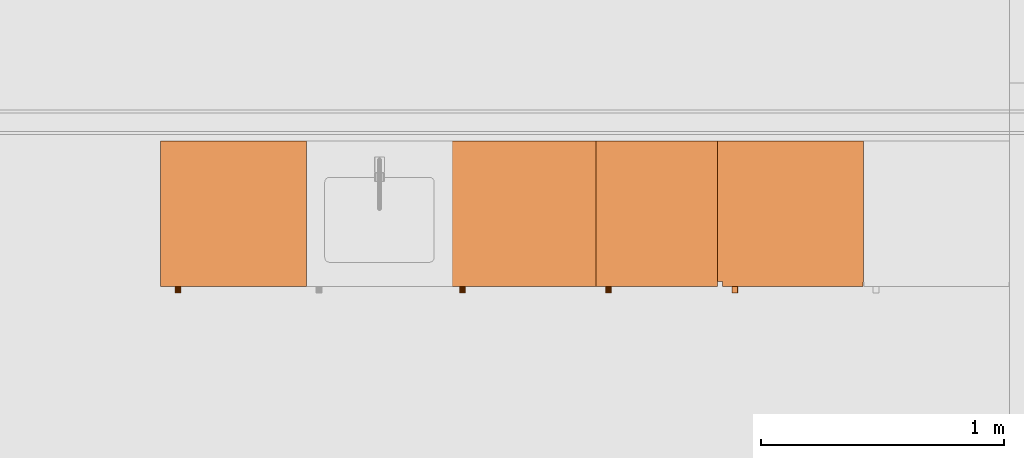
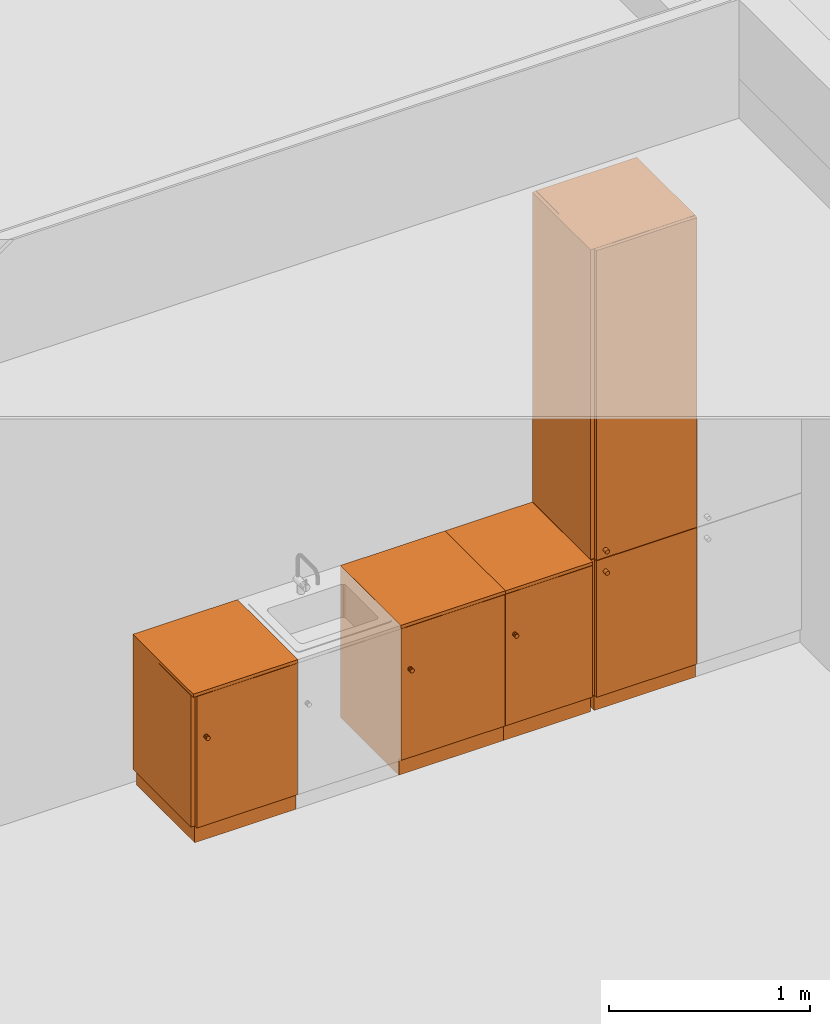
# One storey, part 106 of 167: 4 proxies.
"""IFC2X3 building model written with IfcOpenShell, lengths in millimetres."""

from ifc_helpers import new_model, entity, si_unit, converted_unit, derived_unit, money_unit, direction, frame, origin_with_axes, place, context, subcontext, project, spatial, faceted_brep, source, transform, mapped, type_object, type_shapes, element, save


model = new_model("IFC2X3")

# Units and contexts
model_context = context("Model", 3, precision=0.01, world=origin_with_axes(), true_north=direction((0.0, 1.0)))
plan_context = context("Plan", 3, precision=0.01, world=origin_with_axes(), true_north=direction((0.0, 1.0)))
body_context = subcontext(model_context, "Body", "Model", "MODEL_VIEW")
ifc_project = project(units=[si_unit("LENGTHUNIT", "METRE", prefix="MILLI"), si_unit("AREAUNIT", "SQUARE_METRE"), si_unit("VOLUMEUNIT", "CUBIC_METRE"), converted_unit("PLANEANGLEUNIT", "DEGREE", entity("IfcPlaneAngleMeasure", 0.0174532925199), si_unit("PLANEANGLEUNIT", "RADIAN"), dimensions=[0, 0, 0, 0, 0, 0, 0]), si_unit("SOLIDANGLEUNIT", "STERADIAN"), money_unit("EUR"), converted_unit("TIMEUNIT", "Year", entity("IfcTimeMeasure", 31556926.0), si_unit("TIMEUNIT", "SECOND"), dimensions=[0, 0, 1, 0, 0, 0, 0]), si_unit("MASSUNIT", "GRAM", prefix="KILO"), si_unit("THERMODYNAMICTEMPERATUREUNIT", "DEGREE_CELSIUS"), si_unit("LUMINOUSINTENSITYUNIT", "LUMEN"), si_unit("ENERGYUNIT", "JOULE", prefix="MEGA"), derived_unit("THERMALCONDUCTANCEUNIT", [(si_unit("POWERUNIT", "WATT"), 1), (si_unit("LENGTHUNIT", "METRE"), -1), (si_unit("THERMODYNAMICTEMPERATUREUNIT", "KELVIN"), -1)]), derived_unit("SPECIFICHEATCAPACITYUNIT", [(si_unit("ENERGYUNIT", "JOULE"), 1), (si_unit("MASSUNIT", "GRAM", prefix="KILO"), -1), (si_unit("THERMODYNAMICTEMPERATUREUNIT", "KELVIN"), -1)]), derived_unit("MASSDENSITYUNIT", [(si_unit("MASSUNIT", "GRAM", prefix="KILO"), 1), (si_unit("VOLUMEUNIT", "CUBIC_METRE"), -1)])], contexts=[model_context, plan_context])

# Site, building, storey
site_placement = place(None, origin_with_axes())
site = spatial("IfcSite", under=ifc_project, at=site_placement, Name="Site", CompositionType="ELEMENT")
building_placement = place(site_placement, origin_with_axes())
building = spatial("IfcBuilding", under=site, at=building_placement, Name="Naam gebouw", CompositionType="ELEMENT")
storey_placement = place(building_placement, origin_with_axes())
storey = spatial("IfcBuildingStorey", under=building, at=storey_placement, Name="Begane grond", CompositionType="ELEMENT", Elevation=0.0)

# Proxies
building_element_proxy_type_1 = type_object("IfcBuildingElementProxyType", Name="Kast basis 1D 24", PredefinedType="NOTDEFINED")
shared_shape_1 = source(origin_with_axes(), body_context, "Body", "Brep", [
    faceted_brep([(0.0, 20.0, 0.0), (0.0, 20.0, 100.0), (-500.0, 20.0, 100.0), (-500.0, 20.0, 0.0), (0.0, 600.0, 0.0), (0.0, 600.0, 100.0), (-500.0, 600.0, 100.0), (-500.0, 600.0, 0.0)], [[[0, 1, 2, 3]], [[4, 5, 1, 0]], [[1, 5, 6, 2]], [[3, 2, 6, 7]], [[0, 3, 7, 4]], [[7, 6, 5, 4]]]),
    faceted_brep([(0.0, 20.0, 880.0), (0.0, 20.0, 900.0), (-20.0, 20.0, 900.0), (-20.0, 20.0, 880.0), (0.0, 600.0, 880.0), (0.0, 600.0, 900.0), (-20.0, 600.0, 900.0), (-480.0, 600.0, 900.0), (-500.0, 600.0, 900.0), (-500.0, 20.0, 900.0), (-480.0, 20.0, 900.0), (-480.0, 20.0, 880.0), (-500.0, 20.0, 880.0), (-500.0, 600.0, 880.0), (-480.0, 600.0, 880.0), (-20.0, 600.0, 880.0)], [[[0, 1, 2, 3]], [[4, 5, 1, 0]], [[1, 5, 6, 7, 8, 9, 10, 2]], [[3, 2, 10, 11]], [[0, 3, 11, 12, 13, 14, 15, 4]], [[15, 6, 5, 4]], [[14, 7, 6, 15]], [[13, 8, 7, 14]], [[12, 9, 8, 13]], [[11, 10, 9, 12]]]),
    faceted_brep([(0.0, 20.0, 100.0), (0.0, 20.0, 120.0), (-20.0, 20.0, 120.0), (-20.0, 20.0, 100.0), (0.0, 600.0, 100.0), (0.0, 600.0, 120.0), (-20.0, 600.0, 120.0), (-480.0, 600.0, 120.0), (-500.0, 600.0, 120.0), (-500.0, 20.0, 120.0), (-480.0, 20.0, 120.0), (-480.0, 20.0, 100.0), (-500.0, 20.0, 100.0), (-500.0, 600.0, 100.0), (-480.0, 600.0, 100.0), (-20.0, 600.0, 100.0)], [[[0, 1, 2, 3]], [[4, 5, 1, 0]], [[1, 5, 6, 7, 8, 9, 10, 2]], [[3, 2, 10, 11]], [[0, 3, 11, 12, 13, 14, 15, 4]], [[15, 6, 5, 4]], [[14, 7, 6, 15]], [[13, 8, 7, 14]], [[12, 9, 8, 13]], [[11, 10, 9, 12]]]),
    faceted_brep([(0.0, 20.0, 120.0), (0.0, 20.0, 880.0), (-20.0, 20.0, 880.0), (-20.0, 20.0, 120.0), (0.0, 600.0, 120.0), (0.0, 600.0, 880.0), (-500.0, 600.0, 880.0), (-500.0, 20.0, 880.0), (-480.0, 20.0, 880.0), (-480.0, 580.0, 880.0), (-20.0, 580.0, 880.0), (-20.0, 580.0, 120.0), (-480.0, 580.0, 120.0), (-480.0, 20.0, 120.0), (-500.0, 20.0, 120.0), (-500.0, 600.0, 120.0)], [[[0, 1, 2, 3]], [[4, 5, 1, 0]], [[1, 5, 6, 7, 8, 9, 10, 2]], [[3, 2, 10, 11]], [[0, 3, 11, 12, 13, 14, 15, 4]], [[15, 6, 5, 4]], [[14, 7, 6, 15]], [[13, 8, 7, 14]], [[12, 9, 8, 13]], [[11, 10, 9, 12]]]),
    faceted_brep([(-480.0, 20.0, 480.0), (-480.0, 20.0, 500.0), (-480.0, 580.0, 500.0), (-480.0, 580.0, 480.0), (-20.0, 20.0, 480.0), (-20.0, 20.0, 500.0), (-20.0, 580.0, 500.0), (-20.0, 580.0, 480.0)], [[[0, 1, 2, 3]], [[4, 5, 1, 0]], [[1, 5, 6, 2]], [[3, 2, 6, 7]], [[0, 3, 7, 4]], [[7, 6, 5, 4]]]),
    faceted_brep([(0.0, 0.0, 900.0), (0.0, 0.0, 920.0), (-500.0, 0.0, 920.0), (-500.0, 0.0, 900.0), (0.0, 600.0, 900.0), (0.0, 600.0, 920.0), (-500.0, 600.0, 920.0), (-500.0, 600.0, 900.0)], [[[0, 1, 2, 3]], [[4, 5, 1, 0]], [[1, 5, 6, 2]], [[3, 2, 6, 7]], [[0, 3, 7, 4]], [[7, 6, 5, 4]]]),
    faceted_brep([(-1.5, 20.0, 101.5), (-1.5, 0.0, 101.5), (-498.5, 0.0, 101.5), (-498.5, 20.0, 101.5), (-1.5, 20.0, 898.5), (-1.5, 0.0, 898.5), (-498.5, 0.0, 898.5), (-498.5, 20.0, 898.5)], [[[0, 1, 2, 3]], [[4, 5, 1, 0]], [[1, 5, 6, 2]], [[3, 2, 6, 7]], [[0, 3, 7, 4]], [[7, 6, 5, 4]]]),
    faceted_brep([(-459.58655439, 0.0, 636.907798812), (-460.5, 0.0, 641.5), (-459.58655439, 0.0, 646.092201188), (-456.985281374, 0.0, 649.985281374), (-453.092201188, 0.0, 652.58655439), (-448.5, 0.0, 653.5), (-443.907798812, 0.0, 652.58655439), (-440.014718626, 0.0, 649.985281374), (-437.41344561, 0.0, 646.092201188), (-436.5, 0.0, 641.5), (-437.41344561, 0.0, 636.907798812), (-440.014718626, 0.0, 633.014718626), (-443.907798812, 0.0, 630.41344561), (-448.5, 0.0, 629.5), (-453.092201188, 0.0, 630.41344561), (-456.985281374, 0.0, 633.014718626), (-459.58655439, -25.0, 636.907798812), (-460.5, -25.0, 641.5), (-459.58655439, -25.0, 646.092201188), (-456.985281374, -25.0, 649.985281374), (-453.092201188, -25.0, 652.58655439), (-448.5, -25.0, 653.5), (-443.907798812, -25.0, 652.58655439), (-440.014718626, -25.0, 649.985281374), (-437.41344561, -25.0, 646.092201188), (-436.5, -25.0, 641.5), (-437.41344561, -25.0, 636.907798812), (-440.014718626, -25.0, 633.014718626), (-443.907798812, -25.0, 630.41344561), (-448.5, -25.0, 629.5), (-453.092201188, -25.0, 630.41344561), (-456.985281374, -25.0, 633.014718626)], [[[0, 1, 2, 3, 4, 5, 6, 7, 8, 9, 10, 11, 12, 13, 14, 15]], [[0, 16, 17, 1]], [[1, 17, 18, 2]], [[2, 18, 19, 3]], [[3, 19, 20, 4]], [[4, 20, 21, 5]], [[5, 21, 22, 6]], [[6, 22, 23, 7]], [[7, 23, 24, 8]], [[8, 24, 25, 9]], [[9, 25, 26, 10]], [[10, 26, 27, 11]], [[11, 27, 28, 12]], [[12, 28, 29, 13]], [[13, 29, 30, 14]], [[14, 30, 31, 15]], [[15, 31, 16, 0]], [[16, 31, 30, 29, 28, 27, 26, 25, 24, 23, 22, 21, 20, 19, 18, 17]]]),
])
proxy_1_placement = place(storey_placement, frame((27786.0, 7273.34783859, 0.0), z_axis=(0.0, 0.0, 1.0), x_axis=(1.0, 0.0, 0.0)))
element("IfcBuildingElementProxy", 1, at=proxy_1_placement, inside=storey, type_object=building_element_proxy_type_1, Name="__Object-x", context=body_context, shape_type="MappedRepresentation", body=[
    mapped(shared_shape_1, transform((0.0, 0.0, 0.0))),
])
building_element_proxy_type_2 = type_object("IfcBuildingElementProxyType", Name="Kast hoog 1D 24", PredefinedType="NOTDEFINED")
shared_shape_2 = source(origin_with_axes(), body_context, "Body", "Brep", [
    faceted_brep([(-20.0, 20.0, 910.0), (-20.0, 20.0, 930.0), (-560.0, 20.0, 930.0), (-560.0, 20.0, 910.0), (-20.0, 580.0, 910.0), (-20.0, 580.0, 930.0), (-560.0, 580.0, 930.0), (-560.0, 580.0, 910.0)], [[[0, 1, 2, 3]], [[4, 5, 1, 0]], [[1, 5, 6, 2]], [[3, 2, 6, 7]], [[0, 3, 7, 4]], [[7, 6, 5, 4]]]),
    faceted_brep([(0.0, 20.0, 0.0), (0.0, 20.0, 90.0), (-580.0, 20.0, 90.0), (-580.0, 20.0, 0.0), (0.0, 600.0, 0.0), (0.0, 600.0, 90.0), (-580.0, 600.0, 90.0), (-580.0, 600.0, 0.0)], [[[0, 1, 2, 3]], [[4, 5, 1, 0]], [[1, 5, 6, 2]], [[3, 2, 6, 7]], [[0, 3, 7, 4]], [[7, 6, 5, 4]]]),
    faceted_brep([(0.0, 20.0, 2780.0), (0.0, 20.0, 2800.0), (-20.0, 20.0, 2800.0), (-20.0, 20.0, 2780.0), (0.0, 600.0, 2780.0), (0.0, 600.0, 2800.0), (-20.0, 600.0, 2800.0), (-560.0, 600.0, 2800.0), (-580.0, 600.0, 2800.0), (-580.0, 20.0, 2800.0), (-560.0, 20.0, 2800.0), (-560.0, 20.0, 2780.0), (-580.0, 20.0, 2780.0), (-580.0, 600.0, 2780.0), (-560.0, 600.0, 2780.0), (-20.0, 600.0, 2780.0)], [[[0, 1, 2, 3]], [[4, 5, 1, 0]], [[1, 5, 6, 7, 8, 9, 10, 2]], [[3, 2, 10, 11]], [[0, 3, 11, 12, 13, 14, 15, 4]], [[15, 6, 5, 4]], [[14, 7, 6, 15]], [[13, 8, 7, 14]], [[12, 9, 8, 13]], [[11, 10, 9, 12]]]),
    faceted_brep([(0.0, 20.0, 90.0), (0.0, 20.0, 110.0), (-20.0, 20.0, 110.0), (-20.0, 20.0, 90.0), (0.0, 600.0, 90.0), (0.0, 600.0, 110.0), (-20.0, 600.0, 110.0), (-560.0, 600.0, 110.0), (-580.0, 600.0, 110.0), (-580.0, 20.0, 110.0), (-560.0, 20.0, 110.0), (-560.0, 20.0, 90.0), (-580.0, 20.0, 90.0), (-580.0, 600.0, 90.0), (-560.0, 600.0, 90.0), (-20.0, 600.0, 90.0)], [[[0, 1, 2, 3]], [[4, 5, 1, 0]], [[1, 5, 6, 7, 8, 9, 10, 2]], [[3, 2, 10, 11]], [[0, 3, 11, 12, 13, 14, 15, 4]], [[15, 6, 5, 4]], [[14, 7, 6, 15]], [[13, 8, 7, 14]], [[12, 9, 8, 13]], [[11, 10, 9, 12]]]),
    faceted_brep([(0.0, 20.0, 110.0), (0.0, 20.0, 2780.0), (-20.0, 20.0, 2780.0), (-20.0, 20.0, 110.0), (0.0, 600.0, 110.0), (0.0, 600.0, 2780.0), (-580.0, 600.0, 2780.0), (-580.0, 20.0, 2780.0), (-560.0, 20.0, 2780.0), (-560.0, 580.0, 2780.0), (-20.0, 580.0, 2780.0), (-20.0, 580.0, 110.0), (-560.0, 580.0, 110.0), (-560.0, 20.0, 110.0), (-580.0, 20.0, 110.0), (-580.0, 600.0, 110.0)], [[[0, 1, 2, 3]], [[4, 5, 1, 0]], [[1, 5, 6, 7, 8, 9, 10, 2]], [[3, 2, 10, 11]], [[0, 3, 11, 12, 13, 14, 15, 4]], [[15, 6, 5, 4]], [[14, 7, 6, 15]], [[13, 8, 7, 14]], [[12, 9, 8, 13]], [[11, 10, 9, 12]]]),
    faceted_brep([(-560.0, 20.0, 353.333333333), (-560.0, 20.0, 373.333333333), (-560.0, 580.0, 373.333333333), (-560.0, 580.0, 353.333333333), (-20.0, 20.0, 353.333333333), (-20.0, 20.0, 373.333333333), (-20.0, 580.0, 373.333333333), (-20.0, 580.0, 353.333333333)], [[[0, 1, 2, 3]], [[4, 5, 1, 0]], [[1, 5, 6, 2]], [[3, 2, 6, 7]], [[0, 3, 7, 4]], [[7, 6, 5, 4]]]),
    faceted_brep([(-560.0, 20.0, 636.666666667), (-560.0, 20.0, 656.666666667), (-560.0, 580.0, 656.666666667), (-560.0, 580.0, 636.666666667), (-20.0, 20.0, 636.666666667), (-20.0, 20.0, 656.666666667), (-20.0, 580.0, 656.666666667), (-20.0, 580.0, 636.666666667)], [[[0, 1, 2, 3]], [[4, 5, 1, 0]], [[1, 5, 6, 2]], [[3, 2, 6, 7]], [[0, 3, 7, 4]], [[7, 6, 5, 4]]]),
    faceted_brep([(-1.5, 20.0, 91.5), (-1.5, 0.0, 91.5), (-578.5, 0.0, 91.5), (-578.5, 20.0, 91.5), (-1.5, 20.0, 918.5), (-1.5, 0.0, 918.5), (-578.5, 0.0, 918.5), (-578.5, 20.0, 918.5)], [[[0, 1, 2, 3]], [[4, 5, 1, 0]], [[1, 5, 6, 2]], [[3, 2, 6, 7]], [[0, 3, 7, 4]], [[7, 6, 5, 4]]]),
    faceted_brep([(-540.091109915, 0.0, 838.394171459), (-540.5, 0.0, 841.5), (-540.091109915, 0.0, 844.605828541), (-538.892304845, 0.0, 847.5), (-536.985281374, 0.0, 849.985281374), (-534.5, 0.0, 851.892304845), (-531.605828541, 0.0, 853.091109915), (-528.5, 0.0, 853.5), (-525.394171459, 0.0, 853.091109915), (-522.5, 0.0, 851.892304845), (-520.014718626, 0.0, 849.985281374), (-518.107695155, 0.0, 847.5), (-516.908890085, 0.0, 844.605828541), (-516.5, 0.0, 841.5), (-516.908890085, 0.0, 838.394171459), (-518.107695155, 0.0, 835.5), (-520.014718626, 0.0, 833.014718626), (-522.5, 0.0, 831.107695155), (-525.394171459, 0.0, 829.908890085), (-528.5, 0.0, 829.5), (-531.605828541, 0.0, 829.908890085), (-534.5, 0.0, 831.107695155), (-536.985281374, 0.0, 833.014718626), (-538.892304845, 0.0, 835.5), (-540.091109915, -25.0, 838.394171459), (-540.5, -25.0, 841.5), (-540.091109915, -25.0, 844.605828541), (-538.892304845, -25.0, 847.5), (-536.985281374, -25.0, 849.985281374), (-534.5, -25.0, 851.892304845), (-531.605828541, -25.0, 853.091109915), (-528.5, -25.0, 853.5), (-525.394171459, -25.0, 853.091109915), (-522.5, -25.0, 851.892304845), (-520.014718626, -25.0, 849.985281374), (-518.107695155, -25.0, 847.5), (-516.908890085, -25.0, 844.605828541), (-516.5, -25.0, 841.5), (-516.908890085, -25.0, 838.394171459), (-518.107695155, -25.0, 835.5), (-520.014718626, -25.0, 833.014718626), (-522.5, -25.0, 831.107695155), (-525.394171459, -25.0, 829.908890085), (-528.5, -25.0, 829.5), (-531.605828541, -25.0, 829.908890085), (-534.5, -25.0, 831.107695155), (-536.985281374, -25.0, 833.014718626), (-538.892304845, -25.0, 835.5)], [[[0, 1, 2, 3, 4, 5, 6, 7, 8, 9, 10, 11, 12, 13, 14, 15, 16, 17, 18, 19, 20, 21, 22, 23]], [[0, 24, 25, 1]], [[1, 25, 26, 2]], [[2, 26, 27, 3]], [[3, 27, 28, 4]], [[4, 28, 29, 5]], [[5, 29, 30, 6]], [[6, 30, 31, 7]], [[7, 31, 32, 8]], [[8, 32, 33, 9]], [[9, 33, 34, 10]], [[10, 34, 35, 11]], [[11, 35, 36, 12]], [[12, 36, 37, 13]], [[13, 37, 38, 14]], [[14, 38, 39, 15]], [[15, 39, 40, 16]], [[16, 40, 41, 17]], [[17, 41, 42, 18]], [[18, 42, 43, 19]], [[19, 43, 44, 20]], [[20, 44, 45, 21]], [[21, 45, 46, 22]], [[22, 46, 47, 23]], [[23, 47, 24, 0]], [[24, 47, 46, 45, 44, 43, 42, 41, 40, 39, 38, 37, 36, 35, 34, 33, 32, 31, 30, 29, 28, 27, 26, 25]]]),
    faceted_brep([(-1.5, 20.0, 921.5), (-1.5, 0.0, 921.5), (-578.5, 0.0, 921.5), (-578.5, 20.0, 921.5), (-1.5, 20.0, 2798.5), (-1.5, 0.0, 2798.5), (-578.5, 0.0, 2798.5), (-578.5, 20.0, 2798.5)], [[[0, 1, 2, 3]], [[4, 5, 1, 0]], [[1, 5, 6, 2]], [[3, 2, 6, 7]], [[0, 3, 7, 4]], [[7, 6, 5, 4]]]),
    faceted_brep([(-540.091109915, 0.0, 968.394171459), (-540.5, 0.0, 971.5), (-540.091109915, 0.0, 974.605828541), (-538.892304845, 0.0, 977.5), (-536.985281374, 0.0, 979.985281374), (-534.5, 0.0, 981.892304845), (-531.605828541, 0.0, 983.091109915), (-528.5, 0.0, 983.5), (-525.394171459, 0.0, 983.091109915), (-522.5, 0.0, 981.892304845), (-520.014718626, 0.0, 979.985281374), (-518.107695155, 0.0, 977.5), (-516.908890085, 0.0, 974.605828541), (-516.5, 0.0, 971.5), (-516.908890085, 0.0, 968.394171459), (-518.107695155, 0.0, 965.5), (-520.014718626, 0.0, 963.014718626), (-522.5, 0.0, 961.107695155), (-525.394171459, 0.0, 959.908890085), (-528.5, 0.0, 959.5), (-531.605828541, 0.0, 959.908890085), (-534.5, 0.0, 961.107695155), (-536.985281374, 0.0, 963.014718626), (-538.892304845, 0.0, 965.5), (-540.091109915, -25.0, 968.394171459), (-540.5, -25.0, 971.5), (-540.091109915, -25.0, 974.605828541), (-538.892304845, -25.0, 977.5), (-536.985281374, -25.0, 979.985281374), (-534.5, -25.0, 981.892304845), (-531.605828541, -25.0, 983.091109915), (-528.5, -25.0, 983.5), (-525.394171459, -25.0, 983.091109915), (-522.5, -25.0, 981.892304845), (-520.014718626, -25.0, 979.985281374), (-518.107695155, -25.0, 977.5), (-516.908890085, -25.0, 974.605828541), (-516.5, -25.0, 971.5), (-516.908890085, -25.0, 968.394171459), (-518.107695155, -25.0, 965.5), (-520.014718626, -25.0, 963.014718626), (-522.5, -25.0, 961.107695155), (-525.394171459, -25.0, 959.908890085), (-528.5, -25.0, 959.5), (-531.605828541, -25.0, 959.908890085), (-534.5, -25.0, 961.107695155), (-536.985281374, -25.0, 963.014718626), (-538.892304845, -25.0, 965.5)], [[[0, 1, 2, 3, 4, 5, 6, 7, 8, 9, 10, 11, 12, 13, 14, 15, 16, 17, 18, 19, 20, 21, 22, 23]], [[0, 24, 25, 1]], [[1, 25, 26, 2]], [[2, 26, 27, 3]], [[3, 27, 28, 4]], [[4, 28, 29, 5]], [[5, 29, 30, 6]], [[6, 30, 31, 7]], [[7, 31, 32, 8]], [[8, 32, 33, 9]], [[9, 33, 34, 10]], [[10, 34, 35, 11]], [[11, 35, 36, 12]], [[12, 36, 37, 13]], [[13, 37, 38, 14]], [[14, 38, 39, 15]], [[15, 39, 40, 16]], [[16, 40, 41, 17]], [[17, 41, 42, 18]], [[18, 42, 43, 19]], [[19, 43, 44, 20]], [[20, 44, 45, 21]], [[21, 45, 46, 22]], [[22, 46, 47, 23]], [[23, 47, 24, 0]], [[24, 47, 46, 45, 44, 43, 42, 41, 40, 39, 38, 37, 36, 35, 34, 33, 32, 31, 30, 29, 28, 27, 26, 25]]]),
    faceted_brep([(-580.0, 21.5, 91.5), (-600.0, 21.5, 91.5), (-600.0, 598.5, 91.5), (-580.0, 598.5, 91.5), (-580.0, 21.5, 918.5), (-600.0, 21.5, 918.5), (-600.0, 598.5, 918.5), (-580.0, 598.5, 918.5)], [[[0, 1, 2, 3]], [[4, 5, 1, 0]], [[1, 5, 6, 2]], [[3, 2, 6, 7]], [[0, 3, 7, 4]], [[7, 6, 5, 4]]]),
    faceted_brep([(-580.0, 21.5, 921.5), (-600.0, 21.5, 921.5), (-600.0, 598.5, 921.5), (-580.0, 598.5, 921.5), (-580.0, 21.5, 2798.5), (-600.0, 21.5, 2798.5), (-600.0, 598.5, 2798.5), (-580.0, 598.5, 2798.5)], [[[0, 1, 2, 3]], [[4, 5, 1, 0]], [[1, 5, 6, 2]], [[3, 2, 6, 7]], [[0, 3, 7, 4]], [[7, 6, 5, 4]]]),
])
type_shapes(building_element_proxy_type_2, [shared_shape_2])
proxy_2_placement = place(storey_placement, frame((28386.0, 7273.34783859, 0.0), z_axis=(0.0, 0.0, 1.0), x_axis=(1.0, 0.0, 0.0)))
element("IfcBuildingElementProxy", 2, at=proxy_2_placement, inside=storey, type_object=building_element_proxy_type_2, Name="__Object-x", context=body_context, shape_type="MappedRepresentation", body=[
    mapped(shared_shape_2, transform((0.0, 0.0, 0.0))),
])
shared_shape_3 = source(origin_with_axes(), body_context, "Body", "Brep", [
    faceted_brep([(0.0, 20.0, 0.0), (0.0, 20.0, 100.0), (-580.0, 20.0, 100.0), (-580.0, 20.0, 0.0), (0.0, 600.0, 0.0), (0.0, 600.0, 100.0), (-580.0, 600.0, 100.0), (-580.0, 600.0, 0.0)], [[[0, 1, 2, 3]], [[4, 5, 1, 0]], [[1, 5, 6, 2]], [[3, 2, 6, 7]], [[0, 3, 7, 4]], [[7, 6, 5, 4]]]),
    faceted_brep([(0.0, 20.0, 880.0), (0.0, 20.0, 900.0), (-20.0, 20.0, 900.0), (-20.0, 20.0, 880.0), (0.0, 600.0, 880.0), (0.0, 600.0, 900.0), (-20.0, 600.0, 900.0), (-560.0, 600.0, 900.0), (-580.0, 600.0, 900.0), (-580.0, 20.0, 900.0), (-560.0, 20.0, 900.0), (-560.0, 20.0, 880.0), (-580.0, 20.0, 880.0), (-580.0, 600.0, 880.0), (-560.0, 600.0, 880.0), (-20.0, 600.0, 880.0)], [[[0, 1, 2, 3]], [[4, 5, 1, 0]], [[1, 5, 6, 7, 8, 9, 10, 2]], [[3, 2, 10, 11]], [[0, 3, 11, 12, 13, 14, 15, 4]], [[15, 6, 5, 4]], [[14, 7, 6, 15]], [[13, 8, 7, 14]], [[12, 9, 8, 13]], [[11, 10, 9, 12]]]),
    faceted_brep([(0.0, 20.0, 100.0), (0.0, 20.0, 120.0), (-20.0, 20.0, 120.0), (-20.0, 20.0, 100.0), (0.0, 600.0, 100.0), (0.0, 600.0, 120.0), (-20.0, 600.0, 120.0), (-560.0, 600.0, 120.0), (-580.0, 600.0, 120.0), (-580.0, 20.0, 120.0), (-560.0, 20.0, 120.0), (-560.0, 20.0, 100.0), (-580.0, 20.0, 100.0), (-580.0, 600.0, 100.0), (-560.0, 600.0, 100.0), (-20.0, 600.0, 100.0)], [[[0, 1, 2, 3]], [[4, 5, 1, 0]], [[1, 5, 6, 7, 8, 9, 10, 2]], [[3, 2, 10, 11]], [[0, 3, 11, 12, 13, 14, 15, 4]], [[15, 6, 5, 4]], [[14, 7, 6, 15]], [[13, 8, 7, 14]], [[12, 9, 8, 13]], [[11, 10, 9, 12]]]),
    faceted_brep([(0.0, 20.0, 120.0), (0.0, 20.0, 880.0), (-20.0, 20.0, 880.0), (-20.0, 20.0, 120.0), (0.0, 600.0, 120.0), (0.0, 600.0, 880.0), (-580.0, 600.0, 880.0), (-580.0, 20.0, 880.0), (-560.0, 20.0, 880.0), (-560.0, 580.0, 880.0), (-20.0, 580.0, 880.0), (-20.0, 580.0, 120.0), (-560.0, 580.0, 120.0), (-560.0, 20.0, 120.0), (-580.0, 20.0, 120.0), (-580.0, 600.0, 120.0)], [[[0, 1, 2, 3]], [[4, 5, 1, 0]], [[1, 5, 6, 7, 8, 9, 10, 2]], [[3, 2, 10, 11]], [[0, 3, 11, 12, 13, 14, 15, 4]], [[15, 6, 5, 4]], [[14, 7, 6, 15]], [[13, 8, 7, 14]], [[12, 9, 8, 13]], [[11, 10, 9, 12]]]),
    faceted_brep([(-560.0, 20.0, 480.0), (-560.0, 20.0, 500.0), (-560.0, 580.0, 500.0), (-560.0, 580.0, 480.0), (-20.0, 20.0, 480.0), (-20.0, 20.0, 500.0), (-20.0, 580.0, 500.0), (-20.0, 580.0, 480.0)], [[[0, 1, 2, 3]], [[4, 5, 1, 0]], [[1, 5, 6, 2]], [[3, 2, 6, 7]], [[0, 3, 7, 4]], [[7, 6, 5, 4]]]),
    faceted_brep([(0.0, 0.0, 900.0), (0.0, 0.0, 920.0), (-600.0, 0.0, 920.0), (-600.0, 0.0, 900.0), (0.0, 600.0, 900.0), (0.0, 600.0, 920.0), (-600.0, 600.0, 920.0), (-600.0, 600.0, 900.0)], [[[0, 1, 2, 3]], [[4, 5, 1, 0]], [[1, 5, 6, 2]], [[3, 2, 6, 7]], [[0, 3, 7, 4]], [[7, 6, 5, 4]]]),
    faceted_brep([(-1.5, 20.0, 101.5), (-1.5, 0.0, 101.5), (-578.5, 0.0, 101.5), (-578.5, 20.0, 101.5), (-1.5, 20.0, 898.5), (-1.5, 0.0, 898.5), (-578.5, 0.0, 898.5), (-578.5, 20.0, 898.5)], [[[0, 1, 2, 3]], [[4, 5, 1, 0]], [[1, 5, 6, 2]], [[3, 2, 6, 7]], [[0, 3, 7, 4]], [[7, 6, 5, 4]]]),
    faceted_brep([(-539.58655439, 0.0, 636.907798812), (-540.5, 0.0, 641.5), (-539.58655439, 0.0, 646.092201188), (-536.985281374, 0.0, 649.985281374), (-533.092201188, 0.0, 652.58655439), (-528.5, 0.0, 653.5), (-523.907798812, 0.0, 652.58655439), (-520.014718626, 0.0, 649.985281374), (-517.41344561, 0.0, 646.092201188), (-516.5, 0.0, 641.5), (-517.41344561, 0.0, 636.907798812), (-520.014718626, 0.0, 633.014718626), (-523.907798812, 0.0, 630.41344561), (-528.5, 0.0, 629.5), (-533.092201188, 0.0, 630.41344561), (-536.985281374, 0.0, 633.014718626), (-539.58655439, -25.0, 636.907798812), (-540.5, -25.0, 641.5), (-539.58655439, -25.0, 646.092201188), (-536.985281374, -25.0, 649.985281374), (-533.092201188, -25.0, 652.58655439), (-528.5, -25.0, 653.5), (-523.907798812, -25.0, 652.58655439), (-520.014718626, -25.0, 649.985281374), (-517.41344561, -25.0, 646.092201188), (-516.5, -25.0, 641.5), (-517.41344561, -25.0, 636.907798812), (-520.014718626, -25.0, 633.014718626), (-523.907798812, -25.0, 630.41344561), (-528.5, -25.0, 629.5), (-533.092201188, -25.0, 630.41344561), (-536.985281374, -25.0, 633.014718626)], [[[0, 1, 2, 3, 4, 5, 6, 7, 8, 9, 10, 11, 12, 13, 14, 15]], [[0, 16, 17, 1]], [[1, 17, 18, 2]], [[2, 18, 19, 3]], [[3, 19, 20, 4]], [[4, 20, 21, 5]], [[5, 21, 22, 6]], [[6, 22, 23, 7]], [[7, 23, 24, 8]], [[8, 24, 25, 9]], [[9, 25, 26, 10]], [[10, 26, 27, 11]], [[11, 27, 28, 12]], [[12, 28, 29, 13]], [[13, 29, 30, 14]], [[14, 30, 31, 15]], [[15, 31, 16, 0]], [[16, 31, 30, 29, 28, 27, 26, 25, 24, 23, 22, 21, 20, 19, 18, 17]]]),
    faceted_brep([(-580.0, 21.5, 101.5), (-600.0, 21.5, 101.5), (-600.0, 598.5, 101.5), (-580.0, 598.5, 101.5), (-580.0, 21.5, 898.5), (-600.0, 21.5, 898.5), (-600.0, 598.5, 898.5), (-580.0, 598.5, 898.5)], [[[0, 1, 2, 3]], [[4, 5, 1, 0]], [[1, 5, 6, 2]], [[3, 2, 6, 7]], [[0, 3, 7, 4]], [[7, 6, 5, 4]]]),
])
proxy_3_placement = place(storey_placement, frame((26096.0, 7273.34783859, 0.0), z_axis=(0.0, 0.0, 1.0), x_axis=(1.0, 0.0, 0.0)))
element("IfcBuildingElementProxy", 3, at=proxy_3_placement, inside=storey, type_object=building_element_proxy_type_1, Name="__Object-x", context=body_context, shape_type="MappedRepresentation", body=[
    mapped(shared_shape_3, transform((0.0, 0.0, 0.0))),
])
shared_shape_4 = source(origin_with_axes(), body_context, "Body", "Brep", [
    faceted_brep([(0.0, 20.0, 0.0), (0.0, 20.0, 100.0), (-600.0, 20.0, 100.0), (-600.0, 20.0, 0.0), (0.0, 600.0, 0.0), (0.0, 600.0, 100.0), (-600.0, 600.0, 100.0), (-600.0, 600.0, 0.0)], [[[0, 1, 2, 3]], [[4, 5, 1, 0]], [[1, 5, 6, 2]], [[3, 2, 6, 7]], [[0, 3, 7, 4]], [[7, 6, 5, 4]]]),
    faceted_brep([(0.0, 20.0, 880.0), (0.0, 20.0, 900.0), (-20.0, 20.0, 900.0), (-20.0, 20.0, 880.0), (0.0, 600.0, 880.0), (0.0, 600.0, 900.0), (-20.0, 600.0, 900.0), (-580.0, 600.0, 900.0), (-600.0, 600.0, 900.0), (-600.0, 20.0, 900.0), (-580.0, 20.0, 900.0), (-580.0, 20.0, 880.0), (-600.0, 20.0, 880.0), (-600.0, 600.0, 880.0), (-580.0, 600.0, 880.0), (-20.0, 600.0, 880.0)], [[[0, 1, 2, 3]], [[4, 5, 1, 0]], [[1, 5, 6, 7, 8, 9, 10, 2]], [[3, 2, 10, 11]], [[0, 3, 11, 12, 13, 14, 15, 4]], [[15, 6, 5, 4]], [[14, 7, 6, 15]], [[13, 8, 7, 14]], [[12, 9, 8, 13]], [[11, 10, 9, 12]]]),
    faceted_brep([(0.0, 20.0, 100.0), (0.0, 20.0, 120.0), (-20.0, 20.0, 120.0), (-20.0, 20.0, 100.0), (0.0, 600.0, 100.0), (0.0, 600.0, 120.0), (-20.0, 600.0, 120.0), (-580.0, 600.0, 120.0), (-600.0, 600.0, 120.0), (-600.0, 20.0, 120.0), (-580.0, 20.0, 120.0), (-580.0, 20.0, 100.0), (-600.0, 20.0, 100.0), (-600.0, 600.0, 100.0), (-580.0, 600.0, 100.0), (-20.0, 600.0, 100.0)], [[[0, 1, 2, 3]], [[4, 5, 1, 0]], [[1, 5, 6, 7, 8, 9, 10, 2]], [[3, 2, 10, 11]], [[0, 3, 11, 12, 13, 14, 15, 4]], [[15, 6, 5, 4]], [[14, 7, 6, 15]], [[13, 8, 7, 14]], [[12, 9, 8, 13]], [[11, 10, 9, 12]]]),
    faceted_brep([(0.0, 20.0, 120.0), (0.0, 20.0, 880.0), (-20.0, 20.0, 880.0), (-20.0, 20.0, 120.0), (0.0, 600.0, 120.0), (0.0, 600.0, 880.0), (-600.0, 600.0, 880.0), (-600.0, 20.0, 880.0), (-580.0, 20.0, 880.0), (-580.0, 580.0, 880.0), (-20.0, 580.0, 880.0), (-20.0, 580.0, 120.0), (-580.0, 580.0, 120.0), (-580.0, 20.0, 120.0), (-600.0, 20.0, 120.0), (-600.0, 600.0, 120.0)], [[[0, 1, 2, 3]], [[4, 5, 1, 0]], [[1, 5, 6, 7, 8, 9, 10, 2]], [[3, 2, 10, 11]], [[0, 3, 11, 12, 13, 14, 15, 4]], [[15, 6, 5, 4]], [[14, 7, 6, 15]], [[13, 8, 7, 14]], [[12, 9, 8, 13]], [[11, 10, 9, 12]]]),
    faceted_brep([(-580.0, 20.0, 480.0), (-580.0, 20.0, 500.0), (-580.0, 580.0, 500.0), (-580.0, 580.0, 480.0), (-20.0, 20.0, 480.0), (-20.0, 20.0, 500.0), (-20.0, 580.0, 500.0), (-20.0, 580.0, 480.0)], [[[0, 1, 2, 3]], [[4, 5, 1, 0]], [[1, 5, 6, 2]], [[3, 2, 6, 7]], [[0, 3, 7, 4]], [[7, 6, 5, 4]]]),
    faceted_brep([(0.0, 0.0, 900.0), (0.0, 0.0, 920.0), (-600.0, 0.0, 920.0), (-600.0, 0.0, 900.0), (0.0, 600.0, 900.0), (0.0, 600.0, 920.0), (-600.0, 600.0, 920.0), (-600.0, 600.0, 900.0)], [[[0, 1, 2, 3]], [[4, 5, 1, 0]], [[1, 5, 6, 2]], [[3, 2, 6, 7]], [[0, 3, 7, 4]], [[7, 6, 5, 4]]]),
    faceted_brep([(-1.5, 20.0, 101.5), (-1.5, 0.0, 101.5), (-598.5, 0.0, 101.5), (-598.5, 20.0, 101.5), (-1.5, 20.0, 898.5), (-1.5, 0.0, 898.5), (-598.5, 0.0, 898.5), (-598.5, 20.0, 898.5)], [[[0, 1, 2, 3]], [[4, 5, 1, 0]], [[1, 5, 6, 2]], [[3, 2, 6, 7]], [[0, 3, 7, 4]], [[7, 6, 5, 4]]]),
    faceted_brep([(-559.58655439, 0.0, 636.907798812), (-560.5, 0.0, 641.5), (-559.58655439, 0.0, 646.092201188), (-556.985281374, 0.0, 649.985281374), (-553.092201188, 0.0, 652.58655439), (-548.5, 0.0, 653.5), (-543.907798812, 0.0, 652.58655439), (-540.014718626, 0.0, 649.985281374), (-537.41344561, 0.0, 646.092201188), (-536.5, 0.0, 641.5), (-537.41344561, 0.0, 636.907798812), (-540.014718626, 0.0, 633.014718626), (-543.907798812, 0.0, 630.41344561), (-548.5, 0.0, 629.5), (-553.092201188, 0.0, 630.41344561), (-556.985281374, 0.0, 633.014718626), (-559.58655439, -25.0, 636.907798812), (-560.5, -25.0, 641.5), (-559.58655439, -25.0, 646.092201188), (-556.985281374, -25.0, 649.985281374), (-553.092201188, -25.0, 652.58655439), (-548.5, -25.0, 653.5), (-543.907798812, -25.0, 652.58655439), (-540.014718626, -25.0, 649.985281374), (-537.41344561, -25.0, 646.092201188), (-536.5, -25.0, 641.5), (-537.41344561, -25.0, 636.907798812), (-540.014718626, -25.0, 633.014718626), (-543.907798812, -25.0, 630.41344561), (-548.5, -25.0, 629.5), (-553.092201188, -25.0, 630.41344561), (-556.985281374, -25.0, 633.014718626)], [[[0, 1, 2, 3, 4, 5, 6, 7, 8, 9, 10, 11, 12, 13, 14, 15]], [[0, 16, 17, 1]], [[1, 17, 18, 2]], [[2, 18, 19, 3]], [[3, 19, 20, 4]], [[4, 20, 21, 5]], [[5, 21, 22, 6]], [[6, 22, 23, 7]], [[7, 23, 24, 8]], [[8, 24, 25, 9]], [[9, 25, 26, 10]], [[10, 26, 27, 11]], [[11, 27, 28, 12]], [[12, 28, 29, 13]], [[13, 29, 30, 14]], [[14, 30, 31, 15]], [[15, 31, 16, 0]], [[16, 31, 30, 29, 28, 27, 26, 25, 24, 23, 22, 21, 20, 19, 18, 17]]]),
])
type_shapes(building_element_proxy_type_1, [shared_shape_1, shared_shape_3, shared_shape_4])
proxy_4_placement = place(storey_placement, frame((27286.0, 7273.34783859, 0.0), z_axis=(0.0, 0.0, 1.0), x_axis=(1.0, 0.0, 0.0)))
element("IfcBuildingElementProxy", 4, at=proxy_4_placement, inside=storey, type_object=building_element_proxy_type_1, Name="__Object-x", context=body_context, shape_type="MappedRepresentation", body=[
    mapped(shared_shape_4, transform((0.0, 0.0, 0.0))),
])

save(model, "model.ifc")
